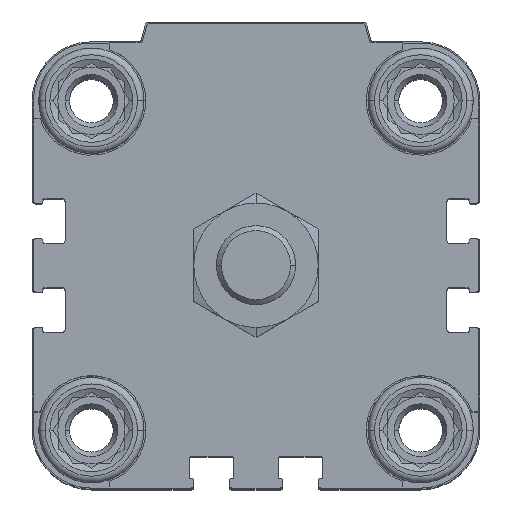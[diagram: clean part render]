
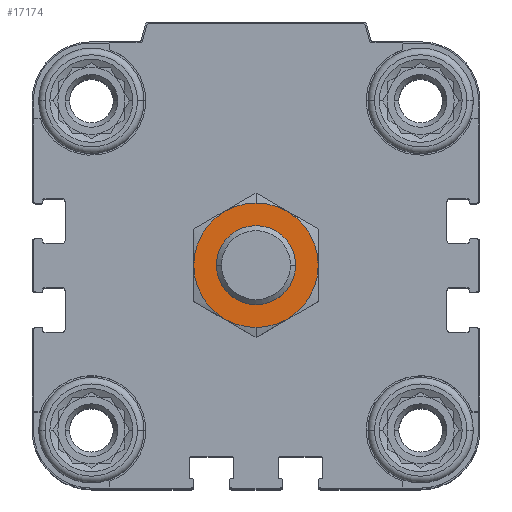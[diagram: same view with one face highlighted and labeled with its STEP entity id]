
A CAD part, top view. The second image highlights one B-rep face of the part: STEP entity #17174.
In plain terms, the highlighted planar face has unit normal (0, 0, 1).
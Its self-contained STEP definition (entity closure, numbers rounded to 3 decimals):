
#234 = EDGE_CURVE ( 'NONE', #15217, #22288, #11870, .T. ) ;
#631 = CARTESIAN_POINT ( 'NONE',  ( 0., -9.45, 18.5 ) ) ;
#868 = PLANE ( 'NONE',  #15166 ) ;
#1979 = VERTEX_POINT ( 'NONE', #631 ) ;
#2153 = DIRECTION ( 'NONE',  ( 0., -1., 0. ) ) ;
#2811 = DIRECTION ( 'NONE',  ( 0., -1., 0. ) ) ;
#3136 = CARTESIAN_POINT ( 'NONE',  ( 0., 9.45, 18.5 ) ) ;
#3425 = CIRCLE ( 'NONE', #4593, 9.45 ) ;
#3849 = AXIS2_PLACEMENT_3D ( 'NONE', #19242, #22544, #15577 ) ;
#4108 = CARTESIAN_POINT ( 'NONE',  ( 0., 6., 18.5 ) ) ;
#4593 = AXIS2_PLACEMENT_3D ( 'NONE', #8054, #5848, #2153 ) ;
#4649 = CARTESIAN_POINT ( 'NONE',  ( 0., 0., 18.5 ) ) ;
#4701 = EDGE_CURVE ( 'NONE', #22288, #15217, #6206, .T. ) ;
#4735 = CARTESIAN_POINT ( 'NONE',  ( 0., 0., 18.5 ) ) ;
#5465 = CARTESIAN_POINT ( 'NONE',  ( 0., -6., 18.5 ) ) ;
#5756 = VERTEX_POINT ( 'NONE', #3136 ) ;
#5769 = EDGE_CURVE ( 'NONE', #1979, #5756, #7028, .T. ) ;
#5848 = DIRECTION ( 'NONE',  ( 0., 0., -1. ) ) ;
#6206 = CIRCLE ( 'NONE', #3849, 6. ) ;
#6551 = ORIENTED_EDGE ( 'NONE', *, *, #5769, .F. ) ;
#7028 = CIRCLE ( 'NONE', #9778, 9.45 ) ;
#8054 = CARTESIAN_POINT ( 'NONE',  ( 0., 0., 18.5 ) ) ;
#9121 = AXIS2_PLACEMENT_3D ( 'NONE', #24233, #18957, #9294 ) ;
#9294 = DIRECTION ( 'NONE',  ( 0., -1., 0. ) ) ;
#9778 = AXIS2_PLACEMENT_3D ( 'NONE', #4735, #23356, #12345 ) ;
#11870 = CIRCLE ( 'NONE', #9121, 6. ) ;
#12345 = DIRECTION ( 'NONE',  ( 0., -1., 0. ) ) ;
#13296 = ORIENTED_EDGE ( 'NONE', *, *, #234, .T. ) ;
#13984 = DIRECTION ( 'NONE',  ( 0., 0., -1. ) ) ;
#14225 = FACE_OUTER_BOUND ( 'NONE', #22573, .T. ) ;
#14251 = ORIENTED_EDGE ( 'NONE', *, *, #4701, .T. ) ;
#15166 = AXIS2_PLACEMENT_3D ( 'NONE', #4649, #13984, #2811 ) ;
#15217 = VERTEX_POINT ( 'NONE', #4108 ) ;
#15577 = DIRECTION ( 'NONE',  ( 0., -1., 0. ) ) ;
#17174 = ADVANCED_FACE ( 'NONE', ( #14225, #19481 ), #868, .F. ) ;
#18957 = DIRECTION ( 'NONE',  ( 0., 0., -1. ) ) ;
#18979 = EDGE_CURVE ( 'NONE', #5756, #1979, #3425, .T. ) ;
#19242 = CARTESIAN_POINT ( 'NONE',  ( 0., 0., 18.5 ) ) ;
#19481 = FACE_BOUND ( 'NONE', #21544, .T. ) ;
#21544 = EDGE_LOOP ( 'NONE', ( #13296, #14251 ) ) ;
#22288 = VERTEX_POINT ( 'NONE', #5465 ) ;
#22544 = DIRECTION ( 'NONE',  ( 0., 0., -1. ) ) ;
#22573 = EDGE_LOOP ( 'NONE', ( #6551, #23511 ) ) ;
#23356 = DIRECTION ( 'NONE',  ( 0., 0., -1. ) ) ;
#23511 = ORIENTED_EDGE ( 'NONE', *, *, #18979, .F. ) ;
#24233 = CARTESIAN_POINT ( 'NONE',  ( 0., 0., 18.5 ) ) ;
